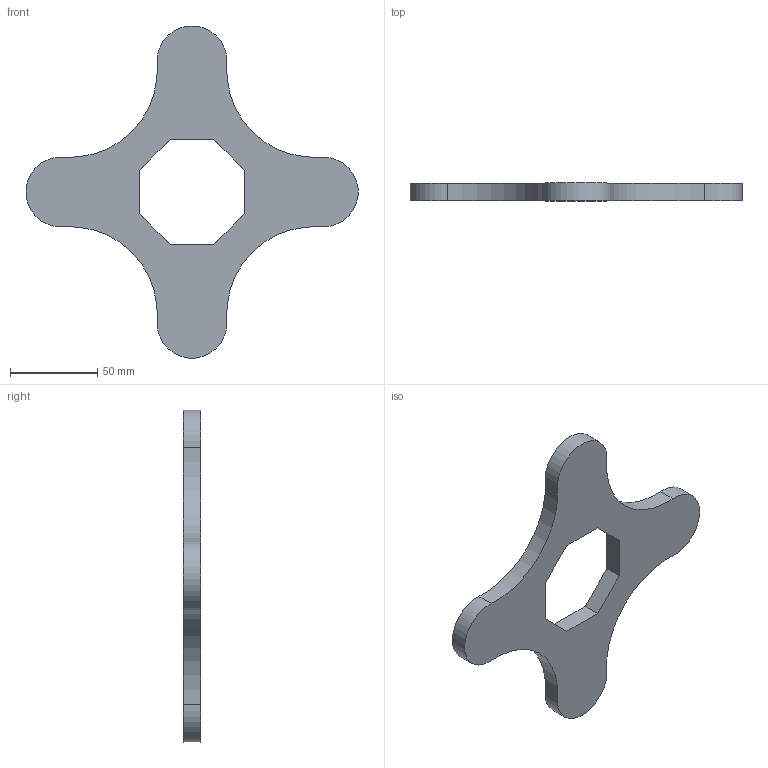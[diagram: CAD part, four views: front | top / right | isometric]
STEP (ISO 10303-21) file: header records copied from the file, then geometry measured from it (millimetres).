
FILE_DESCRIPTION(/* description */ (''),/* implementation_level */ '2;1');
FILE_NAME(/* name */ 'E:\OneDrive\Desktop\HGC_Tangency_04_2021\3D CAD Models\Task_2_HGC_Tangency_v1.stp',/* time_stamp */ '2021-04-10T20:32:17+01:00',/* author */ ('hunte'),/* organization */ (''),/* preprocessor_version */ 'ST-DEVELOPER v18.1',/* originating_system */ 'Autodesk Inventor 2020',/* authorisation */ '');
FILE_SCHEMA (('AUTOMOTIVE_DESIGN { 1 0 10303 214 3 1 1 }'));
Length unit declared in the file: millimetre
Products named in the file (1): Task_2_HGC_Tangency_v1
Bounding box: 189.85 x 10 x 189.85 mm (x, y, z)
Volume: 119953.7 mm3; surface area: 32049.6 mm2
Topology: 1 solids, 1 shells, 18 faces, 48 edges, 32 vertices
Faces by surface type: plane 10, cylinder 8
Entity records: 613 total; most frequent: DIRECTION 102, CARTESIAN_POINT 99, ORIENTED_EDGE 96, EDGE_CURVE 48, AXIS2_PLACEMENT_3D 35, LINE 32, VECTOR 32, VERTEX_POINT 32
